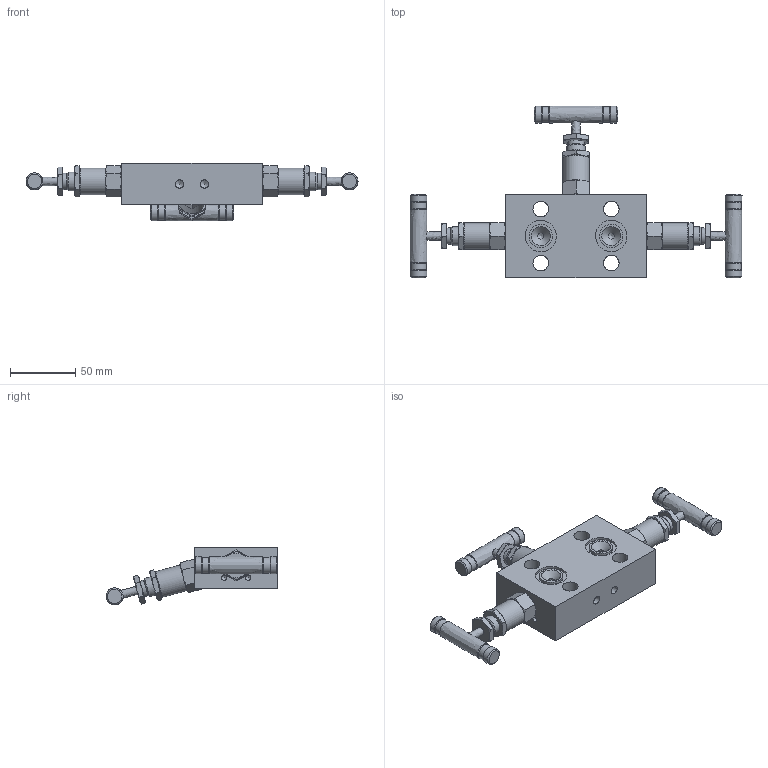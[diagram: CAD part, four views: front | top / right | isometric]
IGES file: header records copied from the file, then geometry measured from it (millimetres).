
Global section: file name: SM3VD-F-8N-S316; native system: Autodesk Inventor 2016; preprocessor: unknown; author: 이승민,,11,0; organization: 20161214.090703; date: 20161216.192126; units: millimetre
Bounding box: 254.52 x 131.66 x 44.19 mm (x, y, z)
Volume: 258053.2 mm3; surface area: 58012.2 mm2
Topology: 4 solids, 4 shells, 332 faces, 822 edges, 534 vertices
Faces by surface type: bspline 332
